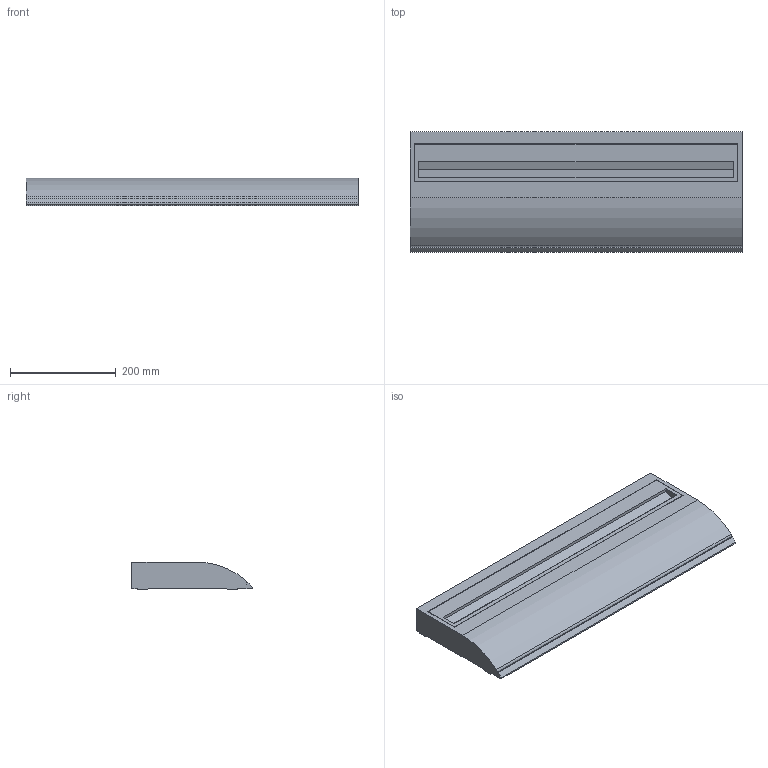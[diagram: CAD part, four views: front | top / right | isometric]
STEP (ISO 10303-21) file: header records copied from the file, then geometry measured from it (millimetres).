
FILE_DESCRIPTION(/* description */ ('Unknown'),/* implementation_level */ '2;1');
FILE_NAME(/* name */ '3D_Footsie1-Slim',/* time_stamp */ '2024-01-11T11:37:35+01:00',/* author */ ('Unknown'),/* organization */ ('Unknown'),/* preprocessor_version */ 'ST-DEVELOPER v18.104',/* originating_system */ 'Solid Edge',/* authorisation */ 'Unknown');
FILE_SCHEMA (('AUTOMOTIVE_DESIGN {1 0 10303 214 3 1 1}'));
Length unit declared in the file: millimetre
Products named in the file (1): 3D_Footsie1-Slim
Bounding box: 629 x 228.1 x 52 mm (x, y, z)
Volume: 5956206.2 mm3; surface area: 411559.9 mm2
Topology: 1 solids, 1 shells, 46 faces, 123 edges, 82 vertices
Faces by surface type: plane 35, cylinder 11
Entity records: 1459 total; most frequent: CARTESIAN_POINT 252, ORIENTED_EDGE 246, DIRECTION 239, EDGE_CURVE 123, LINE 101, VECTOR 101, VERTEX_POINT 82, AXIS2_PLACEMENT_3D 69
